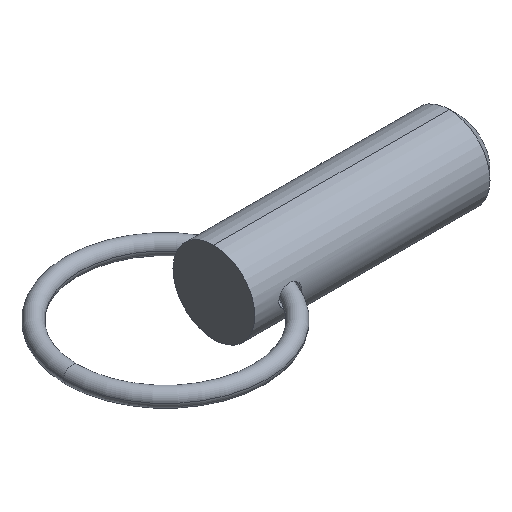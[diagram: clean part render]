
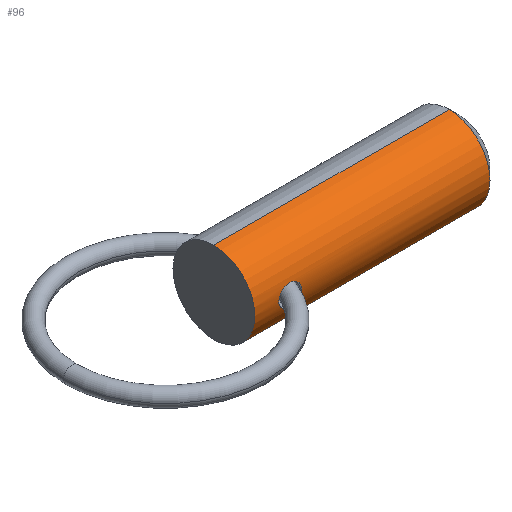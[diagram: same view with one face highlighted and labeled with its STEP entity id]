
A CAD part, isometric view. The second image highlights one B-rep face of the part: STEP entity #96.
In plain terms, the highlighted cylindrical face has radius 5.555 mm (diameter 11.11 mm), a partial arc.
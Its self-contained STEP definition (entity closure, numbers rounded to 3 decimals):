
#2 = CARTESIAN_POINT ( 'NONE',  ( 4.095, -5.423, 1.204 ) ) ;
#6 = CARTESIAN_POINT ( 'NONE',  ( 3.32, -5.543, 0.38 ) ) ;
#15 = CARTESIAN_POINT ( 'NONE',  ( 4.451, -5.392, -1.339 ) ) ;
#20 = CARTESIAN_POINT ( 'NONE',  ( 3.623, -5.489, -0.866 ) ) ;
#27 = CARTESIAN_POINT ( 'NONE',  ( 0., 0., 5.555 ) ) ;
#32 = ORIENTED_EDGE ( 'NONE', *, *, #670, .T. ) ;
#72 = AXIS2_PLACEMENT_3D ( 'NONE', #624, #817, #484 ) ;
#75 = CARTESIAN_POINT ( 'NONE',  ( 6.147, -5.507, -0.733 ) ) ;
#80 = CARTESIAN_POINT ( 'NONE',  ( 4.932, -5.378, 1.391 ) ) ;
#90 = CARTESIAN_POINT ( 'NONE',  ( 5.586, -5.413, 1.25 ) ) ;
#96 = ADVANCED_FACE ( 'NONE', ( #325, #590 ), #525, .T. ) ;
#101 = CARTESIAN_POINT ( 'NONE',  ( 3.256, -5.555, 0. ) ) ;
#102 = DIRECTION ( 'NONE',  ( 1., 0., 0. ) ) ;
#118 = VERTEX_POINT ( 'NONE', #682 ) ;
#146 = CARTESIAN_POINT ( 'NONE',  ( 5.313, -5.391, -1.341 ) ) ;
#149 = CARTESIAN_POINT ( 'NONE',  ( 5.218, -5.385, -1.362 ) ) ;
#153 = CARTESIAN_POINT ( 'NONE',  ( 6.271, -5.535, 0.475 ) ) ;
#162 = CARTESIAN_POINT ( 'NONE',  ( 3.496, -5.51, -0.722 ) ) ;
#164 = CARTESIAN_POINT ( 'NONE',  ( 0., 0., 5.555 ) ) ;
#181 = ORIENTED_EDGE ( 'NONE', *, *, #419, .F. ) ;
#197 = CIRCLE ( 'NONE', #724, 5.555 ) ;
#207 = CARTESIAN_POINT ( 'NONE',  ( 6.301, -5.543, 0.381 ) ) ;
#212 = CARTESIAN_POINT ( 'NONE',  ( 5.219, -5.385, 1.362 ) ) ;
#217 = CARTESIAN_POINT ( 'NONE',  ( 6.34, -5.552, 0.193 ) ) ;
#232 = CARTESIAN_POINT ( 'NONE',  ( 3.256, -5.555, -0.096 ) ) ;
#234 = DIRECTION ( 'NONE',  ( 0., 0., -1. ) ) ;
#275 = CARTESIAN_POINT ( 'NONE',  ( 6.35, -5.555, 0. ) ) ;
#283 = CARTESIAN_POINT ( 'NONE',  ( 0., 0., -5.555 ) ) ;
#284 = CARTESIAN_POINT ( 'NONE',  ( 4.089, -5.424, -1.202 ) ) ;
#297 = CARTESIAN_POINT ( 'NONE',  ( 3.269, -5.552, -0.193 ) ) ;
#307 = VERTEX_POINT ( 'NONE', #27 ) ;
#311 = VERTEX_POINT ( 'NONE', #709 ) ;
#325 = FACE_OUTER_BOUND ( 'NONE', #573, .T. ) ;
#329 = ORIENTED_EDGE ( 'NONE', *, *, #722, .T. ) ;
#330 = B_SPLINE_CURVE_WITH_KNOTS ( 'NONE', 3,
 ( #696, #617, #687, #6, #607, #492, #355, #402, #2, #483, #815, #80, #342, #212, #611, #90, #762, #558, #547, #153, #207, #217, #477, #748 ),
 .UNSPECIFIED., .F., .F.,
 ( 4, 2, 2, 2, 2, 2, 2, 2, 2, 2, 2, 4 ),
 ( 0.001, 0.001, 0.001, 0.002, 0.002, 0.003, 0.003, 0.003, 0.004, 0.005, 0.005, 0.005 ),
 .UNSPECIFIED. ) ;
#342 = CARTESIAN_POINT ( 'NONE',  ( 5.028, -5.379, 1.387 ) ) ;
#348 = CARTESIAN_POINT ( 'NONE',  ( 6.194, -5.518, -0.65 ) ) ;
#355 = CARTESIAN_POINT ( 'NONE',  ( 3.627, -5.488, 0.87 ) ) ;
#359 = DIRECTION ( 'NONE',  ( 1., 0., 0. ) ) ;
#361 = CARTESIAN_POINT ( 'NONE',  ( 3.923, -5.445, -1.108 ) ) ;
#373 = VECTOR ( 'NONE', #102, 1000. ) ;
#388 = DIRECTION ( 'NONE',  ( 0., 0., -1. ) ) ;
#402 = CARTESIAN_POINT ( 'NONE',  ( 3.924, -5.445, 1.109 ) ) ;
#407 = CARTESIAN_POINT ( 'NONE',  ( 6.31, -5.544, -0.386 ) ) ;
#419 = EDGE_CURVE ( 'NONE', #311, #466, #197, .T. ) ;
#420 = CARTESIAN_POINT ( 'NONE',  ( 4.641, -5.381, -1.379 ) ) ;
#432 = CARTESIAN_POINT ( 'NONE',  ( 3.356, -5.536, -0.468 ) ) ;
#446 = EDGE_CURVE ( 'NONE', #307, #311, #773, .T. ) ;
#452 = DIRECTION ( 'NONE',  ( 1., 0., 0. ) ) ;
#466 = VERTEX_POINT ( 'NONE', #536 ) ;
#477 = CARTESIAN_POINT ( 'NONE',  ( 6.35, -5.555, 0.097 ) ) ;
#480 = CARTESIAN_POINT ( 'NONE',  ( 6.35, -5.555, -0.194 ) ) ;
#483 = CARTESIAN_POINT ( 'NONE',  ( 4.453, -5.392, 1.339 ) ) ;
#484 = DIRECTION ( 'NONE',  ( 0., 0., -1. ) ) ;
#485 = LINE ( 'NONE', #283, #592 ) ;
#492 = CARTESIAN_POINT ( 'NONE',  ( 3.497, -5.51, 0.723 ) ) ;
#514 = EDGE_LOOP ( 'NONE', ( #32, #329 ) ) ;
#525 = CYLINDRICAL_SURFACE ( 'NONE', #72, 5.555 ) ;
#536 = CARTESIAN_POINT ( 'NONE',  ( 31.931, 0., -5.555 ) ) ;
#544 = CARTESIAN_POINT ( 'NONE',  ( 5.97, -5.472, -0.961 ) ) ;
#547 = CARTESIAN_POINT ( 'NONE',  ( 6.156, -5.509, 0.738 ) ) ;
#558 = CARTESIAN_POINT ( 'NONE',  ( 6.04, -5.483, 0.898 ) ) ;
#573 = EDGE_LOOP ( 'NONE', ( #725, #774, #650, #181 ) ) ;
#589 = DIRECTION ( 'NONE',  ( 1., 0., 0. ) ) ;
#590 = FACE_BOUND ( 'NONE', #514, .T. ) ;
#592 = VECTOR ( 'NONE', #359, 1000. ) ;
#603 = EDGE_CURVE ( 'NONE', #307, #786, #606, .T. ) ;
#606 = CIRCLE ( 'NONE', #680, 5.555 ) ;
#607 = CARTESIAN_POINT ( 'NONE',  ( 3.357, -5.536, 0.47 ) ) ;
#611 = CARTESIAN_POINT ( 'NONE',  ( 5.314, -5.391, 1.34 ) ) ;
#617 = CARTESIAN_POINT ( 'NONE',  ( 3.256, -5.555, 0.096 ) ) ;
#622 = CARTESIAN_POINT ( 'NONE',  ( 4.931, -5.378, -1.391 ) ) ;
#624 = CARTESIAN_POINT ( 'NONE',  ( 0., 0., 0. ) ) ;
#626 = CARTESIAN_POINT ( 'NONE',  ( 6.035, -5.484, -0.889 ) ) ;
#633 = CARTESIAN_POINT ( 'NONE',  ( 0., 0., -5.555 ) ) ;
#646 = VERTEX_POINT ( 'NONE', #275 ) ;
#650 = ORIENTED_EDGE ( 'NONE', *, *, #812, .T. ) ;
#670 = EDGE_CURVE ( 'NONE', #118, #646, #330, .T. ) ;
#680 = AXIS2_PLACEMENT_3D ( 'NONE', #728, #589, #388 ) ;
#682 = CARTESIAN_POINT ( 'NONE',  ( 3.256, -5.555, 0. ) ) ;
#687 = CARTESIAN_POINT ( 'NONE',  ( 3.269, -5.552, 0.194 ) ) ;
#692 = CARTESIAN_POINT ( 'NONE',  ( 5.027, -5.379, -1.387 ) ) ;
#696 = CARTESIAN_POINT ( 'NONE',  ( 3.256, -5.555, 0. ) ) ;
#705 = CARTESIAN_POINT ( 'NONE',  ( 3.319, -5.543, -0.379 ) ) ;
#709 = CARTESIAN_POINT ( 'NONE',  ( 31.931, 0., 5.555 ) ) ;
#722 = EDGE_CURVE ( 'NONE', #646, #118, #826, .T. ) ;
#724 = AXIS2_PLACEMENT_3D ( 'NONE', #790, #452, #234 ) ;
#725 = ORIENTED_EDGE ( 'NONE', *, *, #446, .F. ) ;
#728 = CARTESIAN_POINT ( 'NONE',  ( 0., 0., 0. ) ) ;
#748 = CARTESIAN_POINT ( 'NONE',  ( 6.35, -5.555, 0. ) ) ;
#753 = CARTESIAN_POINT ( 'NONE',  ( 5.587, -5.413, -1.25 ) ) ;
#762 = CARTESIAN_POINT ( 'NONE',  ( 5.757, -5.436, 1.153 ) ) ;
#773 = LINE ( 'NONE', #164, #373 ) ;
#774 = ORIENTED_EDGE ( 'NONE', *, *, #603, .T. ) ;
#786 = VERTEX_POINT ( 'NONE', #633 ) ;
#790 = CARTESIAN_POINT ( 'NONE',  ( 31.931, 0., 0. ) ) ;
#812 = EDGE_CURVE ( 'NONE', #786, #466, #485, .T. ) ;
#815 = CARTESIAN_POINT ( 'NONE',  ( 4.646, -5.381, 1.379 ) ) ;
#817 = DIRECTION ( 'NONE',  ( 1., 0., 0. ) ) ;
#819 = CARTESIAN_POINT ( 'NONE',  ( 5.758, -5.436, -1.152 ) ) ;
#826 = B_SPLINE_CURVE_WITH_KNOTS ( 'NONE', 3,
 ( #831, #480, #407, #348, #75, #626, #544, #819, #753, #146, #149, #692, #622, #420, #15, #284, #361, #20, #162, #432, #705, #297, #232, #101 ),
 .UNSPECIFIED., .F., .F.,
 ( 4, 2, 2, 2, 2, 2, 2, 2, 2, 2, 2, 4 ),
 ( 0.005, 0.006, 0.006, 0.006, 0.007, 0.007, 0.008, 0.008, 0.009, 0.009, 0.01, 0.01 ),
 .UNSPECIFIED. ) ;
#831 = CARTESIAN_POINT ( 'NONE',  ( 6.35, -5.555, 0. ) ) ;
